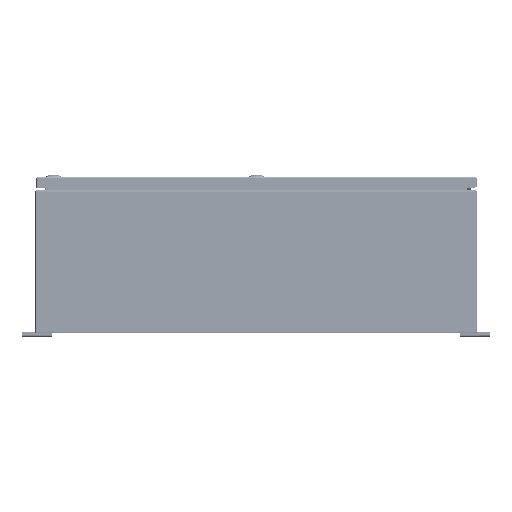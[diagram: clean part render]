
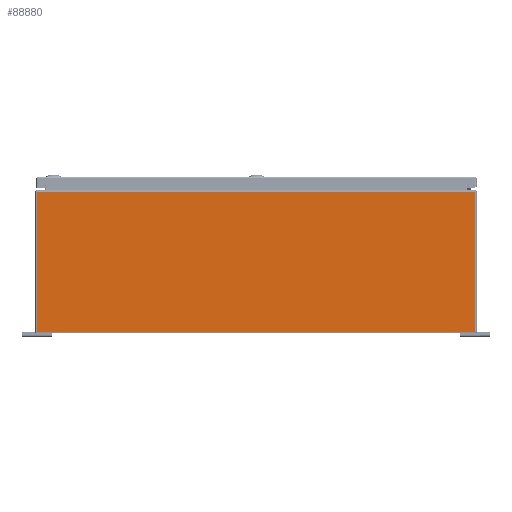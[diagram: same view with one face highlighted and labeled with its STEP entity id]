
A CAD part, left-side view. The second image highlights one B-rep face of the part: STEP entity #88880.
In plain terms, the highlighted planar face has unit normal (-1, 0, 0).
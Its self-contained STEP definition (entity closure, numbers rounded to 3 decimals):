
#5665=PLANE('',#95253);
#7846=LINE('',#124428,#14541);
#7847=LINE('',#124432,#14542);
#7848=LINE('',#124434,#14543);
#7849=LINE('',#124436,#14544);
#7850=LINE('',#124438,#14545);
#7851=LINE('',#124439,#14546);
#14541=VECTOR('',#102828,0.394);
#14542=VECTOR('',#102833,0.394);
#14543=VECTOR('',#102834,0.394);
#14544=VECTOR('',#102835,0.394);
#14545=VECTOR('',#102836,0.394);
#14546=VECTOR('',#102837,0.394);
#22602=FACE_OUTER_BOUND('',#27930,.T.);
#27930=EDGE_LOOP('',(#59858,#59859,#59860,#59861,#59862,#59863));
#36879=VERTEX_POINT('',#124412);
#36885=VERTEX_POINT('',#124427);
#36886=VERTEX_POINT('',#124431);
#36887=VERTEX_POINT('',#124433);
#36888=VERTEX_POINT('',#124435);
#36889=VERTEX_POINT('',#124437);
#45851=EDGE_CURVE('',#36879,#36885,#7846,.T.);
#45853=EDGE_CURVE('',#36886,#36879,#7847,.T.);
#45854=EDGE_CURVE('',#36886,#36887,#7848,.T.);
#45855=EDGE_CURVE('',#36888,#36887,#7849,.T.);
#45856=EDGE_CURVE('',#36889,#36888,#7850,.T.);
#45857=EDGE_CURVE('',#36889,#36885,#7851,.T.);
#59858=ORIENTED_EDGE('',*,*,#45853,.F.);
#59859=ORIENTED_EDGE('',*,*,#45854,.T.);
#59860=ORIENTED_EDGE('',*,*,#45855,.F.);
#59861=ORIENTED_EDGE('',*,*,#45856,.F.);
#59862=ORIENTED_EDGE('',*,*,#45857,.T.);
#59863=ORIENTED_EDGE('',*,*,#45851,.F.);
#88880=ADVANCED_FACE('',(#22602),#5665,.F.);
#95253=AXIS2_PLACEMENT_3D('',#124430,#102831,#102832);
#102828=DIRECTION('',(0.,0.,-1.));
#102831=DIRECTION('center_axis',(1.,0.,0.));
#102832=DIRECTION('ref_axis',(0.,0.,-1.));
#102833=DIRECTION('',(0.,-1.,0.));
#102834=DIRECTION('',(0.,1.,0.));
#102835=DIRECTION('',(0.,-1.,0.));
#102836=DIRECTION('',(0.,0.,1.));
#102837=DIRECTION('',(0.,-1.,0.));
#124412=CARTESIAN_POINT('',(-36.,-18.401,11.901));
#124427=CARTESIAN_POINT('',(-36.,-18.401,0.099));
#124428=CARTESIAN_POINT('',(-36.,-18.401,6.));
#124430=CARTESIAN_POINT('Origin',(-36.,0.,6.));
#124431=CARTESIAN_POINT('',(-36.,-17.626,11.901));
#124432=CARTESIAN_POINT('',(-36.,-9.225,11.901));
#124433=CARTESIAN_POINT('',(-36.,17.626,11.901));
#124434=CARTESIAN_POINT('',(-36.,9.205,11.901));
#124435=CARTESIAN_POINT('',(-36.,18.401,11.901));
#124436=CARTESIAN_POINT('',(-36.,-9.225,11.901));
#124437=CARTESIAN_POINT('',(-36.,18.401,0.099));
#124438=CARTESIAN_POINT('',(-36.,18.401,6.));
#124439=CARTESIAN_POINT('',(-36.,9.25,0.099));
